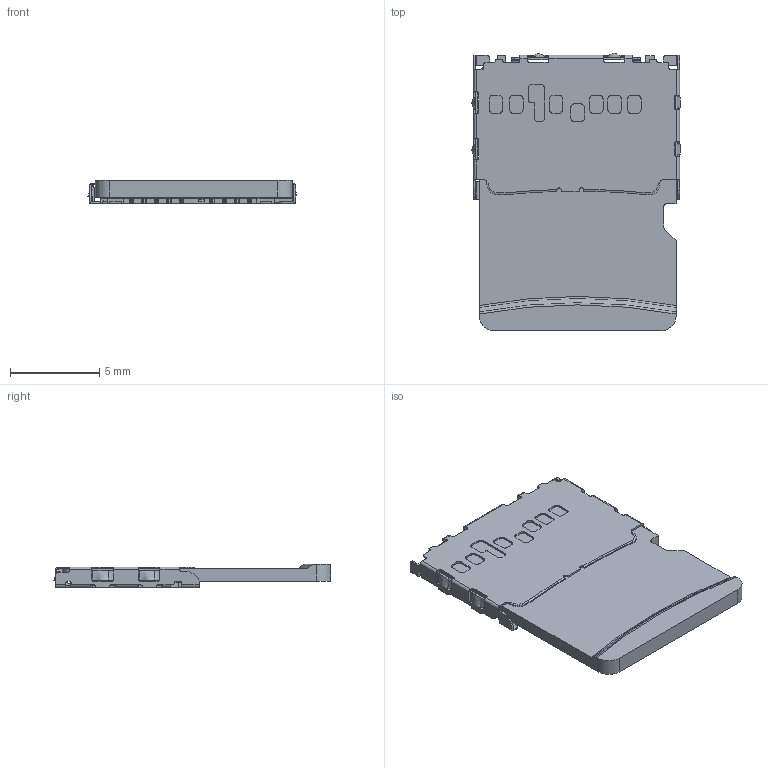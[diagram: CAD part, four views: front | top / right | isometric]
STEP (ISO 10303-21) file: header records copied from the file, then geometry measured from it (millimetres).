
FILE_DESCRIPTION((''),'2;1');
FILE_NAME('MS115-T7131-01_ASM_ASM','2024-03-21T16:28:20',('Administrator'),(''),'CREO PARAMETRIC BY PTC INC, 2022073','CREO PARAMETRIC BY PTC INC, 2022073','');
FILE_SCHEMA(('AP242_MANAGED_MODEL_BASED_3D_ENGINEERING_MIM_LF { 1 0 10303 442 1 1 4 }'));
Length unit declared in the file: millimetre
Products named in the file (27): MICRO_SD_MOLDING_20_1_1_1_1_1_1; MICRO_SD_MOLDING_20_2_1_1_1_1_1; MICRO_SD_MOLDING_20_ASM_1_ASM_3_ASM; MICRO_SD_CONTACT_61_1_1_1_1_1_1; MICRO_SD_CONTACT_61_2_1_1_1_1_1; MICRO_SD_CONTACT_61_3_1_1_1_1_1; MICRO_SD_CONTACT_61_4_1_1_1_1_1; MICRO_SD_CONTACT_61_5_1_1_1_1_1; MICRO_SD_CONTACT_61_6_1_1_1_1_1; MICRO_SD_CONTACT_61_7_1_1_1_1_1; MICRO_SD_CONTACT_61_8_1_1_1_1_1; MICRO_SD_CONTACT_61_9_1_1_1_1_1; MICRO_SD_CONTACT_61_10_1_1_1__1; MICRO_SD_CONTACT_61_ASM_1_ASM_3_ASM; COVER_ASM_2_1_1_1_1_1_1_1_1; MICRO-CARD_1_1_1_1_1_1_1_1_1; PCBPAD_2_ASM_1_ASM_1_ASM_1_1_1_; ASM0001_ASM_11_ASM_1_ASM_1_AS_2_ASM; A0970-0001_MS115-T7131-01__AS_2_ASM; 30-1_ASM_1_ASM_1_ASM_1_1_ASM_1__ASM; 20-1_1_1_1_1_1_1; 50-1_ASM_1_ASM_1_1_ASM_1_ASM_1__ASM; A0970-0001_MS115-T7131-01__AS_3_ASM; ASM0001_ASM_1_ASM_1_ASM_1_ASM; A0970-0001_MS115-T7131-01_9-15__ASM; A0970-0001_MS115-T7131-01_10-09_ASM; MS115-T7131-01_ASM_ASM
Assembly tree (26 placements, depth 11):
  MS115-T7131-01_ASM_ASM
    A0970-0001_MS115-T7131-01_10-09_ASM
      A0970-0001_MS115-T7131-01_9-15__ASM
        ASM0001_ASM_1_ASM_1_ASM_1_ASM
          A0970-0001_MS115-T7131-01__AS_3_ASM
            50-1_ASM_1_ASM_1_1_ASM_1_ASM_1__ASM
              30-1_ASM_1_ASM_1_ASM_1_1_ASM_1__ASM
                A0970-0001_MS115-T7131-01__AS_2_ASM
                  ASM0001_ASM_11_ASM_1_ASM_1_AS_2_ASM
              20-1_1_1_1_1_1_1
Bounding box: 11.64 x 15.5 x 1.3 mm (x, y, z)
Volume: 138.8 mm3; surface area: 759.3 mm2
Topology: 14 solids, 15 shells, 1450 faces, 4276 edges, 2851 vertices
Faces by surface type: plane 927, cylinder 478, bspline 23, extrusion 11, torus 6, cone 5
Entity records: 57117 total; most frequent: CARTESIAN_POINT 11755, ORIENTED_EDGE 8392, DIRECTION 8234, EDGE_CURVE 4196, VECTOR 3108, LINE 3097, VERTEX_POINT 2771, AXIS2_PLACEMENT_3D 2563
